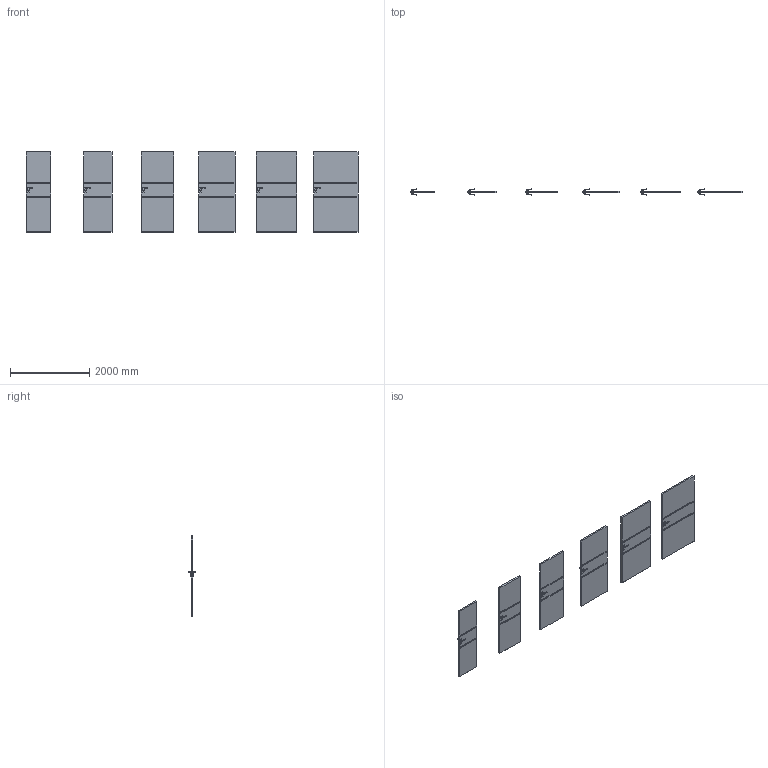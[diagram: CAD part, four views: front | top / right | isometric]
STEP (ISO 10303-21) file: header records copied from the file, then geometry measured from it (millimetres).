
FILE_DESCRIPTION(/* description */ (''),/* implementation_level */ '2;1');
FILE_NAME(/* name */ '049688_B_2-Skrzydło VECTOR C_ polska norma _PN__ bezprzylgowe..stp',/* time_stamp */ '2024-02-22T14:03:35+01:00',/* author */ (''),/* organization */ (''),/* preprocessor_version */ 'ST-DEVELOPER v16',/* originating_system */ 'SIEMENS PLM Software NX 11.0',/* authorisation */ '');
FILE_SCHEMA (('AUTOMOTIVE_DESIGN { 1 0 10303 214 3 1 1 1 }'));
Length unit declared in the file: millimetre
Products named in the file (1): bkni40080F8A8x48
Bounding box: 8368 x 153.27 x 2017 mm (x, y, z)
Volume: 413273971 mm3; surface area: 22712016.5 mm2
Topology: 30 solids, 30 shells, 1440 faces, 3612 edges, 2112 vertices
Faces by surface type: plane 624, cylinder 456, bspline 192, sphere 168
Entity records: 48364 total; most frequent: CARTESIAN_POINT 15421, ORIENTED_EDGE 6888, DIRECTION 6686, EDGE_CURVE 3444, AXIS2_PLACEMENT_3D 2353, VERTEX_POINT 2112, LINE 1980, VECTOR 1980
